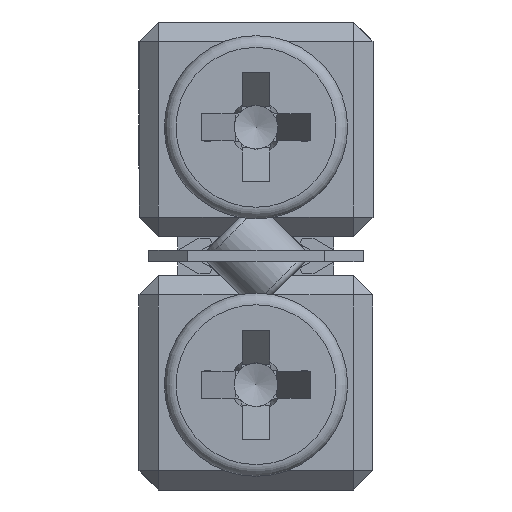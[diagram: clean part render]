
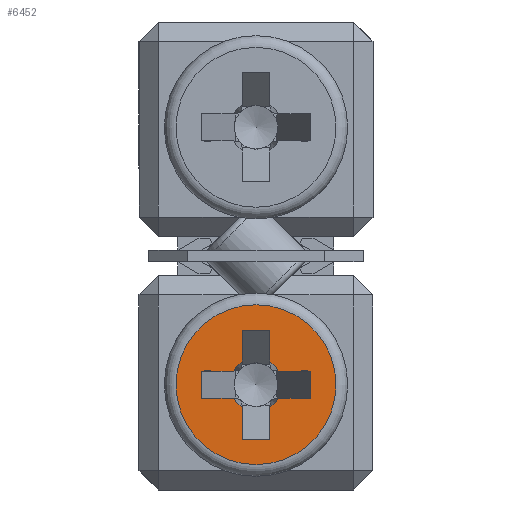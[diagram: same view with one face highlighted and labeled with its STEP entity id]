
A CAD part, left-side view. The second image highlights one B-rep face of the part: STEP entity #6452.
In plain terms, the highlighted planar face has unit normal (-1, 0, 0).
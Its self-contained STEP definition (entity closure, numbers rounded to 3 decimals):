
#45 = DIRECTION ( 'NONE',  ( 0., -1., 0. ) ) ;
#159 = CARTESIAN_POINT ( 'NONE',  ( -61.5, -0.581, 3.05 ) ) ;
#170 = CARTESIAN_POINT ( 'NONE',  ( -61.5, 0., 2.7 ) ) ;
#658 = VERTEX_POINT ( 'NONE', #10203 ) ;
#661 = EDGE_LOOP ( 'NONE', ( #13991 ) ) ;
#664 = CARTESIAN_POINT ( 'NONE',  ( -61.5, 0.581, 2.35 ) ) ;
#748 = LINE ( 'NONE', #3044, #14525 ) ;
#822 = EDGE_CURVE ( 'NONE', #14384, #2205, #5851, .T. ) ;
#880 = CARTESIAN_POINT ( 'NONE',  ( -61.5, -1.4, 2.35 ) ) ;
#951 = VECTOR ( 'NONE', #13232, 1000. ) ;
#1011 = ORIENTED_EDGE ( 'NONE', *, *, #6590, .T. ) ;
#1156 = CARTESIAN_POINT ( 'NONE',  ( -61.5, 0.35, 4.1 ) ) ;
#1272 = CARTESIAN_POINT ( 'NONE',  ( -61.5, 0., 2.7 ) ) ;
#1285 = ORIENTED_EDGE ( 'NONE', *, *, #13561, .T. ) ;
#1471 = DIRECTION ( 'NONE',  ( -1., 0., 0. ) ) ;
#1646 = DIRECTION ( 'NONE',  ( -1., 0., 0. ) ) ;
#1776 = VECTOR ( 'NONE', #7322, 1000. ) ;
#1879 = CIRCLE ( 'NONE', #8834, 0.678 ) ;
#1930 = VERTEX_POINT ( 'NONE', #14715 ) ;
#1950 = DIRECTION ( 'NONE',  ( 0., -1., 0. ) ) ;
#2130 = AXIS2_PLACEMENT_3D ( 'NONE', #15659, #4177, #9464 ) ;
#2205 = VERTEX_POINT ( 'NONE', #3826 ) ;
#2279 = DIRECTION ( 'NONE',  ( -1., 0., 0. ) ) ;
#2289 = CARTESIAN_POINT ( 'NONE',  ( -61.5, -1.4, 2.35 ) ) ;
#2334 = EDGE_LOOP ( 'NONE', ( #6907, #12154, #15733, #15115, #9323, #8684, #13316, #15269, #5758, #1011, #5023, #5901, #9889, #1285, #3530, #7811 ) ) ;
#2452 = CARTESIAN_POINT ( 'NONE',  ( -61.5, 1.4, 3.05 ) ) ;
#2505 = DIRECTION ( 'NONE',  ( 0., 1., 0. ) ) ;
#2596 = CARTESIAN_POINT ( 'NONE',  ( -61.5, 0.35, 1.3 ) ) ;
#2605 = EDGE_CURVE ( 'NONE', #9968, #1930, #15204, .T. ) ;
#2841 = FACE_BOUND ( 'NONE', #2334, .T. ) ;
#2854 = AXIS2_PLACEMENT_3D ( 'NONE', #170, #3690, #11475 ) ;
#2930 = VERTEX_POINT ( 'NONE', #159 ) ;
#3044 = CARTESIAN_POINT ( 'NONE',  ( -61.5, 0.35, 1.3 ) ) ;
#3139 = CARTESIAN_POINT ( 'NONE',  ( -61.5, 1.4, 3.05 ) ) ;
#3314 = EDGE_CURVE ( 'NONE', #6617, #7106, #1879, .T. ) ;
#3427 = AXIS2_PLACEMENT_3D ( 'NONE', #1272, #16527, #7486 ) ;
#3530 = ORIENTED_EDGE ( 'NONE', *, *, #11930, .F. ) ;
#3565 = VERTEX_POINT ( 'NONE', #2289 ) ;
#3690 = DIRECTION ( 'NONE',  ( -1., 0., 0. ) ) ;
#3809 = CARTESIAN_POINT ( 'NONE',  ( -61.5, 1.4, 3.05 ) ) ;
#3826 = CARTESIAN_POINT ( 'NONE',  ( -61.5, 0.35, 2.119 ) ) ;
#4177 = DIRECTION ( 'NONE',  ( 1., 0., 0. ) ) ;
#4413 = EDGE_CURVE ( 'NONE', #2930, #8705, #6394, .T. ) ;
#4425 = LINE ( 'NONE', #11897, #951 ) ;
#5023 = ORIENTED_EDGE ( 'NONE', *, *, #16422, .F. ) ;
#5258 = CIRCLE ( 'NONE', #2854, 0.678 ) ;
#5437 = FACE_OUTER_BOUND ( 'NONE', #661, .T. ) ;
#5583 = CARTESIAN_POINT ( 'NONE',  ( -61.5, 0., 2.7 ) ) ;
#5678 = CARTESIAN_POINT ( 'NONE',  ( -61.5, -1.4, 2.35 ) ) ;
#5758 = ORIENTED_EDGE ( 'NONE', *, *, #822, .F. ) ;
#5851 = CIRCLE ( 'NONE', #11203, 0.678 ) ;
#5901 = ORIENTED_EDGE ( 'NONE', *, *, #8011, .T. ) ;
#6266 = CARTESIAN_POINT ( 'NONE',  ( -61.5, -0.35, 4.1 ) ) ;
#6297 = VERTEX_POINT ( 'NONE', #1156 ) ;
#6299 = LINE ( 'NONE', #2452, #1776 ) ;
#6394 = LINE ( 'NONE', #3809, #12784 ) ;
#6452 = ADVANCED_FACE ( 'NONE', ( #5437, #2841 ), #10539, .F. ) ;
#6506 = CARTESIAN_POINT ( 'NONE',  ( -61.5, 0., 2.7 ) ) ;
#6538 = EDGE_CURVE ( 'NONE', #7496, #2205, #8193, .T. ) ;
#6590 = EDGE_CURVE ( 'NONE', #14384, #7175, #11110, .T. ) ;
#6617 = VERTEX_POINT ( 'NONE', #16143 ) ;
#6691 = LINE ( 'NONE', #9123, #11874 ) ;
#6830 = CARTESIAN_POINT ( 'NONE',  ( -61.5, -0.35, 3.281 ) ) ;
#6907 = ORIENTED_EDGE ( 'NONE', *, *, #15760, .F. ) ;
#7007 = DIRECTION ( 'NONE',  ( 0., 1., 0. ) ) ;
#7106 = VERTEX_POINT ( 'NONE', #9068 ) ;
#7154 = VECTOR ( 'NONE', #15821, 1000. ) ;
#7175 = VERTEX_POINT ( 'NONE', #7813 ) ;
#7322 = DIRECTION ( 'NONE',  ( 0., 0., -1. ) ) ;
#7429 = CARTESIAN_POINT ( 'NONE',  ( -61.5, -0.35, 1.3 ) ) ;
#7445 = LINE ( 'NONE', #6266, #12271 ) ;
#7486 = DIRECTION ( 'NONE',  ( 0., 1., 0. ) ) ;
#7489 = VECTOR ( 'NONE', #1950, 1000. ) ;
#7496 = VERTEX_POINT ( 'NONE', #2596 ) ;
#7580 = DIRECTION ( 'NONE',  ( 0., 1., 0. ) ) ;
#7811 = ORIENTED_EDGE ( 'NONE', *, *, #9017, .T. ) ;
#7813 = CARTESIAN_POINT ( 'NONE',  ( -61.5, 1.4, 2.35 ) ) ;
#7815 = VERTEX_POINT ( 'NONE', #8764 ) ;
#7848 = VERTEX_POINT ( 'NONE', #6830 ) ;
#8011 = EDGE_CURVE ( 'NONE', #658, #1930, #13438, .T. ) ;
#8176 = CARTESIAN_POINT ( 'NONE',  ( -61.5, 0.35, 1.3 ) ) ;
#8193 = LINE ( 'NONE', #11893, #7154 ) ;
#8397 = EDGE_CURVE ( 'NONE', #7496, #12390, #748, .T. ) ;
#8631 = CARTESIAN_POINT ( 'NONE',  ( -61.5, -2.05, 2.7 ) ) ;
#8684 = ORIENTED_EDGE ( 'NONE', *, *, #15857, .T. ) ;
#8705 = VERTEX_POINT ( 'NONE', #9145 ) ;
#8764 = CARTESIAN_POINT ( 'NONE',  ( -61.5, -0.35, 4.1 ) ) ;
#8834 = AXIS2_PLACEMENT_3D ( 'NONE', #6506, #1471, #11442 ) ;
#9017 = EDGE_CURVE ( 'NONE', #7815, #7848, #6691, .T. ) ;
#9068 = CARTESIAN_POINT ( 'NONE',  ( -61.5, -0.581, 2.35 ) ) ;
#9123 = CARTESIAN_POINT ( 'NONE',  ( -61.5, -0.35, 4.1 ) ) ;
#9145 = CARTESIAN_POINT ( 'NONE',  ( -61.5, -1.4, 3.05 ) ) ;
#9323 = ORIENTED_EDGE ( 'NONE', *, *, #3314, .F. ) ;
#9350 = CARTESIAN_POINT ( 'NONE',  ( -61.5, -1.4, 2.35 ) ) ;
#9464 = DIRECTION ( 'NONE',  ( 0., -1., 0. ) ) ;
#9734 = DIRECTION ( 'NONE',  ( 0., -1., 0. ) ) ;
#9889 = ORIENTED_EDGE ( 'NONE', *, *, #2605, .F. ) ;
#9968 = VERTEX_POINT ( 'NONE', #14983 ) ;
#10203 = CARTESIAN_POINT ( 'NONE',  ( -61.5, 1.4, 3.05 ) ) ;
#10350 = DIRECTION ( 'NONE',  ( 0., 1., 0. ) ) ;
#10412 = VECTOR ( 'NONE', #15814, 1000. ) ;
#10539 = PLANE ( 'NONE',  #2130 ) ;
#10553 = EDGE_CURVE ( 'NONE', #3565, #7106, #11776, .T. ) ;
#11110 = LINE ( 'NONE', #880, #11707 ) ;
#11203 = AXIS2_PLACEMENT_3D ( 'NONE', #5583, #1646, #7007 ) ;
#11442 = DIRECTION ( 'NONE',  ( 0., 1., 0. ) ) ;
#11475 = DIRECTION ( 'NONE',  ( 0., 1., 0. ) ) ;
#11707 = VECTOR ( 'NONE', #7580, 1000. ) ;
#11776 = LINE ( 'NONE', #9350, #12377 ) ;
#11874 = VECTOR ( 'NONE', #13982, 1000. ) ;
#11893 = CARTESIAN_POINT ( 'NONE',  ( -61.5, 0.35, 1.3 ) ) ;
#11897 = CARTESIAN_POINT ( 'NONE',  ( -61.5, -0.35, 4.1 ) ) ;
#11930 = EDGE_CURVE ( 'NONE', #7815, #6297, #7445, .T. ) ;
#11957 = AXIS2_PLACEMENT_3D ( 'NONE', #12428, #2279, #16189 ) ;
#12114 = EDGE_CURVE ( 'NONE', #3565, #8705, #14233, .T. ) ;
#12154 = ORIENTED_EDGE ( 'NONE', *, *, #4413, .T. ) ;
#12271 = VECTOR ( 'NONE', #2505, 1000. ) ;
#12377 = VECTOR ( 'NONE', #10350, 1000. ) ;
#12390 = VERTEX_POINT ( 'NONE', #7429 ) ;
#12428 = CARTESIAN_POINT ( 'NONE',  ( -61.5, 0., 2.7 ) ) ;
#12784 = VECTOR ( 'NONE', #45, 1000. ) ;
#13211 = LINE ( 'NONE', #8176, #13651 ) ;
#13232 = DIRECTION ( 'NONE',  ( 0., 0., -1. ) ) ;
#13316 = ORIENTED_EDGE ( 'NONE', *, *, #8397, .F. ) ;
#13438 = LINE ( 'NONE', #3139, #7489 ) ;
#13561 = EDGE_CURVE ( 'NONE', #9968, #6297, #13211, .T. ) ;
#13651 = VECTOR ( 'NONE', #15646, 1000. ) ;
#13982 = DIRECTION ( 'NONE',  ( 0., 0., -1. ) ) ;
#13991 = ORIENTED_EDGE ( 'NONE', *, *, #16456, .T. ) ;
#14233 = LINE ( 'NONE', #5678, #10412 ) ;
#14370 = CIRCLE ( 'NONE', #11957, 2.05 ) ;
#14384 = VERTEX_POINT ( 'NONE', #664 ) ;
#14525 = VECTOR ( 'NONE', #9734, 1000. ) ;
#14715 = CARTESIAN_POINT ( 'NONE',  ( -61.5, 0.581, 3.05 ) ) ;
#14983 = CARTESIAN_POINT ( 'NONE',  ( -61.5, 0.35, 3.281 ) ) ;
#15115 = ORIENTED_EDGE ( 'NONE', *, *, #10553, .T. ) ;
#15204 = CIRCLE ( 'NONE', #3427, 0.678 ) ;
#15269 = ORIENTED_EDGE ( 'NONE', *, *, #6538, .T. ) ;
#15646 = DIRECTION ( 'NONE',  ( 0., 0., 1. ) ) ;
#15659 = CARTESIAN_POINT ( 'NONE',  ( -61.5, 0., 0.35 ) ) ;
#15733 = ORIENTED_EDGE ( 'NONE', *, *, #12114, .F. ) ;
#15760 = EDGE_CURVE ( 'NONE', #2930, #7848, #5258, .T. ) ;
#15814 = DIRECTION ( 'NONE',  ( 0., 0., 1. ) ) ;
#15821 = DIRECTION ( 'NONE',  ( 0., 0., 1. ) ) ;
#15857 = EDGE_CURVE ( 'NONE', #6617, #12390, #4425, .T. ) ;
#16143 = CARTESIAN_POINT ( 'NONE',  ( -61.5, -0.35, 2.119 ) ) ;
#16189 = DIRECTION ( 'NONE',  ( 0., -1., 0. ) ) ;
#16417 = VERTEX_POINT ( 'NONE', #8631 ) ;
#16422 = EDGE_CURVE ( 'NONE', #658, #7175, #6299, .T. ) ;
#16456 = EDGE_CURVE ( 'NONE', #16417, #16417, #14370, .T. ) ;
#16527 = DIRECTION ( 'NONE',  ( -1., 0., 0. ) ) ;
